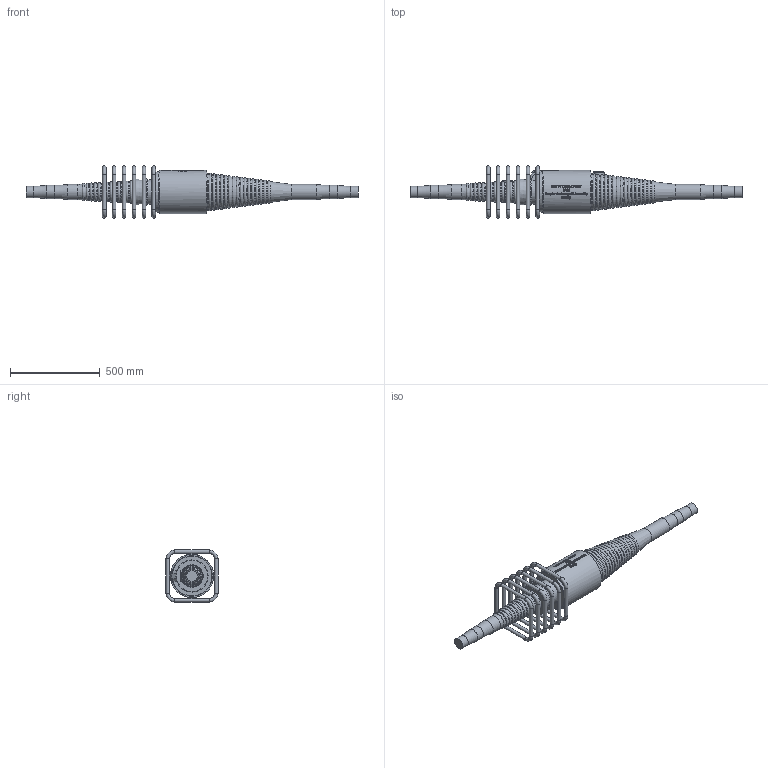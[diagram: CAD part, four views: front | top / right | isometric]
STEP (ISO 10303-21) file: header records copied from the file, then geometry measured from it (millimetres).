
FILE_DESCRIPTION(/* description */ (''),/* implementation_level */ '2;1');
FILE_NAME(/* name */ 'BBR VT CONA CMI BT 1206_Coupler H Assembly_CS-43,35_Stirrup.stp',/* time_stamp */ '2024-10-31T11:05:14+01:00',/* author */ ('tk'),/* organization */ (''),/* preprocessor_version */ 'ST-DEVELOPER v20',/* originating_system */ 'Autodesk Inventor 2024',/* authorisation */ '');
FILE_SCHEMA (('AUTOMOTIVE_DESIGN { 1 0 10303 214 3 1 1 }'));
Products named in the file (1): BBR VT CONA CMI BT 1206_Coupler H Assembly_CS-43,35_Stirrup
Bounding box: 1844.56 x 290 x 290 mm (x, y, z)
Volume: 31058767.5 mm3; surface area: 1247477.9 mm2
Topology: 7 solids, 7 shells, 1080 faces, 2867 edges, 1865 vertices
Faces by surface type: bspline 418, plane 357, torus 127, cylinder 120, cone 34, sphere 24
Full cylindrical faces by diameter (mm): 20 x24, 57 x2, 64 x1, 64.013 x1, 74 x1, 74.013 x1, 84 x1, 84.013 x1, 177.282 x1, 178.841 x1, 240 x1
Entity records: 46384 total; most frequent: CARTESIAN_POINT 20455, ORIENTED_EDGE 5734, DIRECTION 4254, EDGE_CURVE 2867, VERTEX_POINT 1865, AXIS2_PLACEMENT_3D 1565, EDGE_LOOP 1156, LINE 1124
